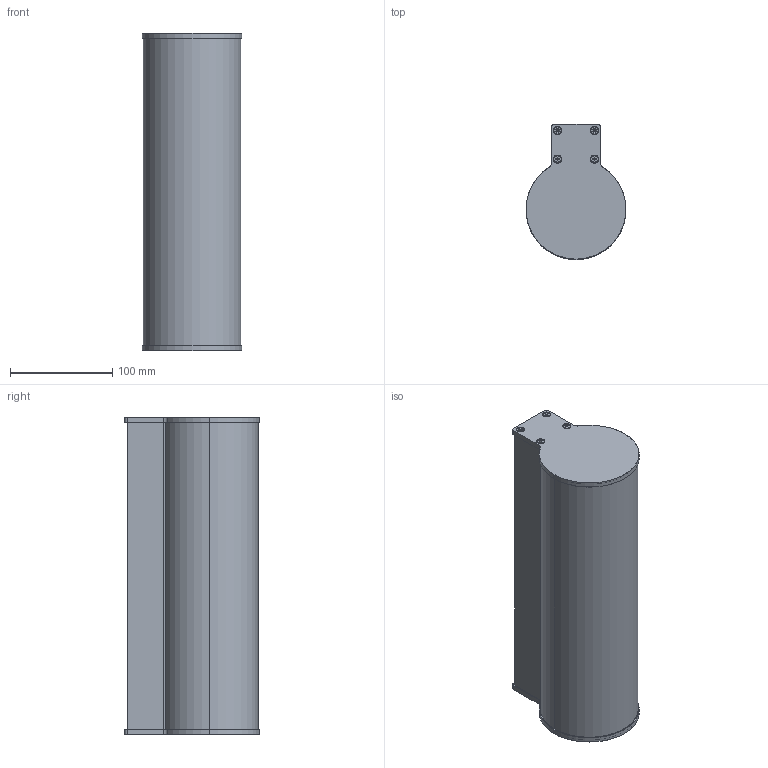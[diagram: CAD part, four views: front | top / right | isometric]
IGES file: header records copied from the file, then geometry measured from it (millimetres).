
Start section: SolidWorks IGES file using analytic representation for surfaces
Global section: file name: C:\Users\JoãoSantos\Desktop\02_3D.2D\01_2020\02_Linear\01_O975\01_Saliente\O975_310.IGS; native system: SolidWorks 2020; preprocessor: SolidWorks 2020; author: JoãoSantos; date: 201021.111122; units: millimetre
Bounding box: 97.5 x 131.71 x 310 mm (x, y, z)
Surface area: 294965.8 mm2 (no closed solid volume)
Topology: 0 solids, 0 shells, 339 faces, 3550 edges, 3534 vertices
Faces by surface type: bspline 192, revolution 147
